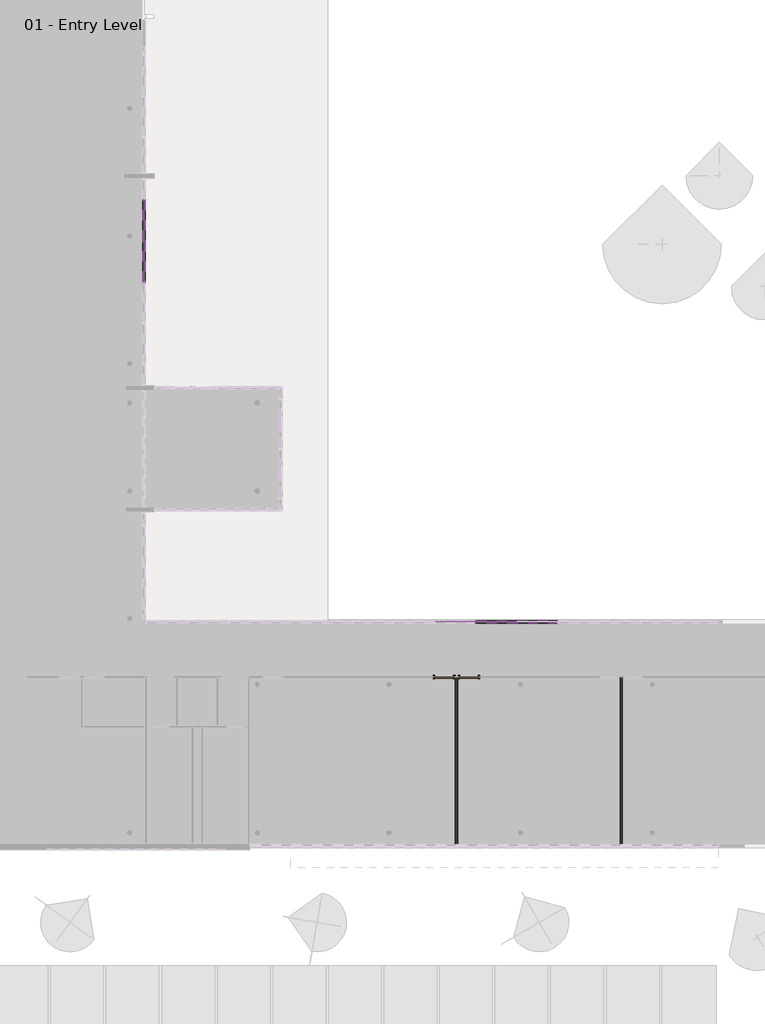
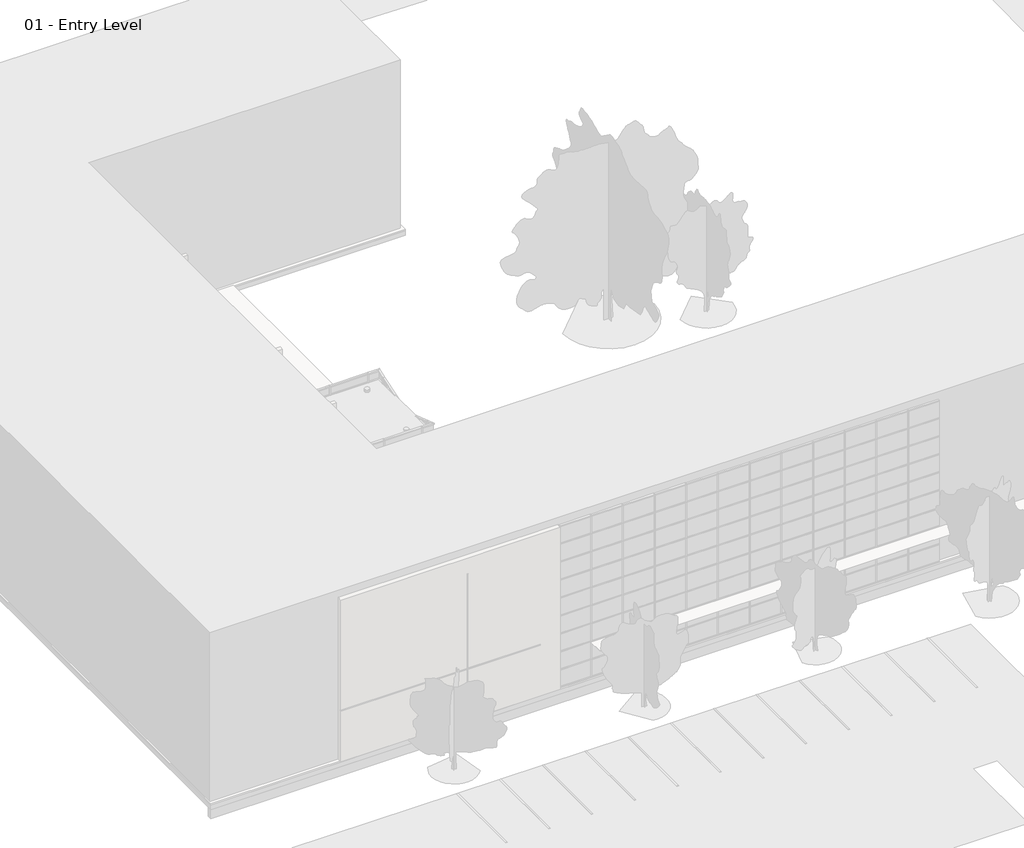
# One storey, part 18 of 35: 79 members, 36 plates, 2 doors, 2 walls.
"""IFC4 building model written with IfcOpenShell, lengths in millimetres."""

from ifc_helpers import new_model, si_unit, origin, origin_with_axes, place, context, project, spatial, polyline, outline, extrude, transform, mapped, element, save
from components import door_305aa2a5, door_e5f9f3c4, member_2b49869a, member_391b434c, member_9e90ae50, member_9193c932, system_panel_glazed_1b9d6098, system_panel_glazed_70da479d

model = new_model("IFC4")

# Units and contexts
model_context = context("Model", 3, world=origin())
ifc_project = project(units=[si_unit("LENGTHUNIT", "METRE", prefix="MILLI")], contexts=[model_context])

# Site, building, storey
site = spatial("IfcSite", under=ifc_project)
building = spatial("IfcBuilding", under=site)
storey = spatial("IfcBuildingStorey", under=building, Name="01 - Entry Level", Elevation=0.0)

# Doors
placement = place(None, origin())
door_shape = door_305aa2a5(model_context)
element("IfcDoor", 1, ObjectType="Single-Flush : 36\" x 84\"", at=placement, inside=storey, context=model_context, shape_type="MappedRepresentation", body=[
    mapped(door_shape, transform((32017.6207476, 8277.15, 0.0), x_axis=(1.0, 0.0, 0.0), y_axis=(0.0, 1.0, 0.0), z_axis=(0.0, 0.0, 1.0))),
])
door_2_shape = door_e5f9f3c4(model_context)
element("IfcDoor", 2, ObjectType="Single-Flush : 36\" x 84\"", at=placement, inside=storey, context=model_context, shape_type="MappedRepresentation", body=[
    mapped(door_2_shape, transform((33236.8207476, 8277.15, 0.0), x_axis=(-1.0, 0.0, 0.0), y_axis=(0.0, -1.0, 0.0), z_axis=(0.0, 0.0, 1.0))),
])

# Members
member_shape = member_2b49869a(model_context)
element("IfcMember", 3, ObjectType="Rectangular Mullion : 2.5\" x 5\" rectangular", at=placement, inside=storey, context=model_context, shape_type="MappedRepresentation", body=[
    mapped(member_shape, transform((35624.4207476, 11001.3, 9753.6), x_axis=(-1.0, 0.0, 0.0), y_axis=(0.0, 1.0, 0.0), z_axis=(0.0, 0.0, -1.0))),
])
element("IfcMember", 4, ObjectType="Rectangular Mullion : 2.5\" x 5\" rectangular", at=placement, inside=storey, context=model_context, shape_type="MappedRepresentation", body=[
    mapped(member_shape, transform((33592.4207476, 11001.3, 9753.6), x_axis=(-1.0, 0.0, 0.0), y_axis=(0.0, 1.0, 0.0), z_axis=(0.0, 0.0, -1.0))),
])
element("IfcMember", 5, ObjectType="Rectangular Mullion : 2.5\" x 5\" rectangular", at=placement, inside=storey, context=model_context, shape_type="MappedRepresentation", body=[
    mapped(member_shape, transform((17184.0207476, 27784.35, 9753.6), x_axis=(0.0, 1.0, 0.0), y_axis=(1.0, 0.0, 0.0), z_axis=(0.0, 0.0, -1.0))),
])
element("IfcMember", 6, ObjectType="Rectangular Mullion : 2.5\" x 5\" rectangular", at=placement, inside=storey, context=model_context, shape_type="MappedRepresentation", body=[
    mapped(member_shape, transform((17184.0207476, 29816.35, 9753.6), x_axis=(0.0, 1.0, 0.0), y_axis=(1.0, 0.0, 0.0), z_axis=(0.0, 0.0, -1.0))),
])
element("IfcMember", 7, ObjectType="Rectangular Mullion : 2.5\" x 5\" rectangular", at=placement, inside=storey, context=model_context, shape_type="MappedRepresentation", body=[
    mapped(member_shape, transform((17184.0207476, 31848.35, 9753.6), x_axis=(0.0, 1.0, 0.0), y_axis=(1.0, 0.0, 0.0), z_axis=(0.0, 0.0, -1.0))),
])
member_2_shape = member_391b434c(model_context)
element("IfcMember", 8, ObjectType="Rectangular Mullion : 2.5\" x 5\" rectangular", at=placement, inside=storey, context=model_context, shape_type="MappedRepresentation", body=[
    mapped(member_2_shape, transform((35656.1707476, 11001.3, 10972.8), x_axis=(0.0, 0.0, 1.0), y_axis=(0.0, 1.0, 0.0), z_axis=(-1.0, 0.0, 0.0))),
])
element("IfcMember", 9, ObjectType="Rectangular Mullion : 2.5\" x 5\" rectangular", at=placement, inside=storey, context=model_context, shape_type="MappedRepresentation", body=[
    mapped(member_2_shape, transform((33624.1707476, 11001.3, 10972.8), x_axis=(0.0, 0.0, 1.0), y_axis=(0.0, 1.0, 0.0), z_axis=(-1.0, 0.0, 0.0))),
])
element("IfcMember", 10, ObjectType="Rectangular Mullion : 2.5\" x 5\" rectangular", at=placement, inside=storey, context=model_context, shape_type="MappedRepresentation", body=[
    mapped(member_2_shape, transform((17184.0207476, 29784.6, 10972.8), x_axis=(0.0, 0.0, 1.0), y_axis=(1.0, 0.0, 0.0), z_axis=(0.0, 1.0, 0.0))),
])
element("IfcMember", 11, ObjectType="Rectangular Mullion : 2.5\" x 5\" rectangular", at=placement, inside=storey, context=model_context, shape_type="MappedRepresentation", body=[
    mapped(member_2_shape, transform((17184.0207476, 31816.6, 10972.8), x_axis=(0.0, 0.0, 1.0), y_axis=(1.0, 0.0, 0.0), z_axis=(0.0, 1.0, 0.0))),
])
element("IfcMember", 12, ObjectType="Rectangular Mullion : 2.5\" x 5\" rectangular", at=placement, inside=storey, context=model_context, shape_type="MappedRepresentation", body=[
    mapped(member_2_shape, transform((35592.6707476, 11001.3, 0.0), x_axis=(0.0, 0.0, -1.0), y_axis=(0.0, 1.0, 0.0), z_axis=(1.0, 0.0, 0.0))),
])
element("IfcMember", 13, ObjectType="Rectangular Mullion : 2.5\" x 5\" rectangular", at=placement, inside=storey, context=model_context, shape_type="MappedRepresentation", body=[
    mapped(member_2_shape, transform((33560.6707476, 11001.3, 0.0), x_axis=(0.0, 0.0, -1.0), y_axis=(0.0, 1.0, 0.0), z_axis=(1.0, 0.0, 0.0))),
])
element("IfcMember", 14, ObjectType="Rectangular Mullion : 2.5\" x 5\" rectangular", at=placement, inside=storey, context=model_context, shape_type="MappedRepresentation", body=[
    mapped(member_2_shape, transform((17184.0207476, 29848.1, 0.0), x_axis=(0.0, 0.0, -1.0), y_axis=(1.0, 0.0, 0.0), z_axis=(0.0, -1.0, 0.0))),
])
member_3_shape = member_9e90ae50(model_context)
element("IfcMember", 15, ObjectType="Rectangular Mullion : 2.5\" x 5\" rectangular", at=placement, inside=storey, context=model_context, shape_type="MappedRepresentation", body=[
    mapped(member_3_shape, transform((35656.1707476, 11001.3, 1219.2), x_axis=(0.0, 0.0, 1.0), y_axis=(0.0, 1.0, 0.0), z_axis=(-1.0, 0.0, 0.0))),
])
element("IfcMember", 16, ObjectType="Rectangular Mullion : 2.5\" x 5\" rectangular", at=placement, inside=storey, context=model_context, shape_type="MappedRepresentation", body=[
    mapped(member_3_shape, transform((33624.1707476, 11001.3, 1219.2), x_axis=(0.0, 0.0, 1.0), y_axis=(0.0, 1.0, 0.0), z_axis=(-1.0, 0.0, 0.0))),
])
element("IfcMember", 17, ObjectType="Rectangular Mullion : 2.5\" x 5\" rectangular", at=placement, inside=storey, context=model_context, shape_type="MappedRepresentation", body=[
    mapped(member_3_shape, transform((35656.1707476, 11001.3, 2438.4), x_axis=(0.0, 0.0, 1.0), y_axis=(0.0, 1.0, 0.0), z_axis=(-1.0, 0.0, 0.0))),
])
element("IfcMember", 18, ObjectType="Rectangular Mullion : 2.5\" x 5\" rectangular", at=placement, inside=storey, context=model_context, shape_type="MappedRepresentation", body=[
    mapped(member_3_shape, transform((33624.1707476, 11001.3, 2438.4), x_axis=(0.0, 0.0, 1.0), y_axis=(0.0, 1.0, 0.0), z_axis=(-1.0, 0.0, 0.0))),
])
element("IfcMember", 19, ObjectType="Rectangular Mullion : 2.5\" x 5\" rectangular", at=placement, inside=storey, context=model_context, shape_type="MappedRepresentation", body=[
    mapped(member_3_shape, transform((35656.1707476, 11001.3, 3657.6), x_axis=(0.0, 0.0, 1.0), y_axis=(0.0, 1.0, 0.0), z_axis=(-1.0, 0.0, 0.0))),
])
element("IfcMember", 20, ObjectType="Rectangular Mullion : 2.5\" x 5\" rectangular", at=placement, inside=storey, context=model_context, shape_type="MappedRepresentation", body=[
    mapped(member_3_shape, transform((33624.1707476, 11001.3, 3657.6), x_axis=(0.0, 0.0, 1.0), y_axis=(0.0, 1.0, 0.0), z_axis=(-1.0, 0.0, 0.0))),
])
element("IfcMember", 21, ObjectType="Rectangular Mullion : 2.5\" x 5\" rectangular", at=placement, inside=storey, context=model_context, shape_type="MappedRepresentation", body=[
    mapped(member_3_shape, transform((35656.1707476, 11001.3, 4876.8), x_axis=(0.0, 0.0, 1.0), y_axis=(0.0, 1.0, 0.0), z_axis=(-1.0, 0.0, 0.0))),
])
element("IfcMember", 22, ObjectType="Rectangular Mullion : 2.5\" x 5\" rectangular", at=placement, inside=storey, context=model_context, shape_type="MappedRepresentation", body=[
    mapped(member_3_shape, transform((33624.1707476, 11001.3, 4876.8), x_axis=(0.0, 0.0, 1.0), y_axis=(0.0, 1.0, 0.0), z_axis=(-1.0, 0.0, 0.0))),
])
element("IfcMember", 23, ObjectType="Rectangular Mullion : 2.5\" x 5\" rectangular", at=placement, inside=storey, context=model_context, shape_type="MappedRepresentation", body=[
    mapped(member_3_shape, transform((35656.1707476, 11001.3, 6096.0), x_axis=(0.0, 0.0, 1.0), y_axis=(0.0, 1.0, 0.0), z_axis=(-1.0, 0.0, 0.0))),
])
element("IfcMember", 24, ObjectType="Rectangular Mullion : 2.5\" x 5\" rectangular", at=placement, inside=storey, context=model_context, shape_type="MappedRepresentation", body=[
    mapped(member_3_shape, transform((33624.1707476, 11001.3, 6096.0), x_axis=(0.0, 0.0, 1.0), y_axis=(0.0, 1.0, 0.0), z_axis=(-1.0, 0.0, 0.0))),
])
element("IfcMember", 25, ObjectType="Rectangular Mullion : 2.5\" x 5\" rectangular", at=placement, inside=storey, context=model_context, shape_type="MappedRepresentation", body=[
    mapped(member_3_shape, transform((35656.1707476, 11001.3, 7315.2), x_axis=(0.0, 0.0, 1.0), y_axis=(0.0, 1.0, 0.0), z_axis=(-1.0, 0.0, 0.0))),
])
element("IfcMember", 26, ObjectType="Rectangular Mullion : 2.5\" x 5\" rectangular", at=placement, inside=storey, context=model_context, shape_type="MappedRepresentation", body=[
    mapped(member_3_shape, transform((33624.1707476, 11001.3, 7315.2), x_axis=(0.0, 0.0, 1.0), y_axis=(0.0, 1.0, 0.0), z_axis=(-1.0, 0.0, 0.0))),
])
element("IfcMember", 27, ObjectType="Rectangular Mullion : 2.5\" x 5\" rectangular", at=placement, inside=storey, context=model_context, shape_type="MappedRepresentation", body=[
    mapped(member_3_shape, transform((35656.1707476, 11001.3, 8534.4), x_axis=(0.0, 0.0, 1.0), y_axis=(0.0, 1.0, 0.0), z_axis=(-1.0, 0.0, 0.0))),
])
element("IfcMember", 28, ObjectType="Rectangular Mullion : 2.5\" x 5\" rectangular", at=placement, inside=storey, context=model_context, shape_type="MappedRepresentation", body=[
    mapped(member_3_shape, transform((33624.1707476, 11001.3, 8534.4), x_axis=(0.0, 0.0, 1.0), y_axis=(0.0, 1.0, 0.0), z_axis=(-1.0, 0.0, 0.0))),
])
element("IfcMember", 29, ObjectType="Rectangular Mullion : 2.5\" x 5\" rectangular", at=placement, inside=storey, context=model_context, shape_type="MappedRepresentation", body=[
    mapped(member_3_shape, transform((35656.1707476, 11001.3, 9753.6), x_axis=(0.0, 0.0, 1.0), y_axis=(0.0, 1.0, 0.0), z_axis=(-1.0, 0.0, 0.0))),
])
element("IfcMember", 30, ObjectType="Rectangular Mullion : 2.5\" x 5\" rectangular", at=placement, inside=storey, context=model_context, shape_type="MappedRepresentation", body=[
    mapped(member_3_shape, transform((33624.1707476, 11001.3, 9753.6), x_axis=(0.0, 0.0, 1.0), y_axis=(0.0, 1.0, 0.0), z_axis=(-1.0, 0.0, 0.0))),
])
element("IfcMember", 31, ObjectType="Rectangular Mullion : 2.5\" x 5\" rectangular", at=placement, inside=storey, context=model_context, shape_type="MappedRepresentation", body=[
    mapped(member_3_shape, transform((17184.0207476, 29784.6, 1219.2), x_axis=(0.0, 0.0, 1.0), y_axis=(1.0, 0.0, 0.0), z_axis=(0.0, 1.0, 0.0))),
])
element("IfcMember", 32, ObjectType="Rectangular Mullion : 2.5\" x 5\" rectangular", at=placement, inside=storey, context=model_context, shape_type="MappedRepresentation", body=[
    mapped(member_3_shape, transform((17184.0207476, 31816.6, 1219.2), x_axis=(0.0, 0.0, 1.0), y_axis=(1.0, 0.0, 0.0), z_axis=(0.0, 1.0, 0.0))),
])
element("IfcMember", 33, ObjectType="Rectangular Mullion : 2.5\" x 5\" rectangular", at=placement, inside=storey, context=model_context, shape_type="MappedRepresentation", body=[
    mapped(member_3_shape, transform((17184.0207476, 29784.6, 2438.4), x_axis=(0.0, 0.0, 1.0), y_axis=(1.0, 0.0, 0.0), z_axis=(0.0, 1.0, 0.0))),
])
element("IfcMember", 34, ObjectType="Rectangular Mullion : 2.5\" x 5\" rectangular", at=placement, inside=storey, context=model_context, shape_type="MappedRepresentation", body=[
    mapped(member_3_shape, transform((17184.0207476, 31816.6, 2438.4), x_axis=(0.0, 0.0, 1.0), y_axis=(1.0, 0.0, 0.0), z_axis=(0.0, 1.0, 0.0))),
])
element("IfcMember", 35, ObjectType="Rectangular Mullion : 2.5\" x 5\" rectangular", at=placement, inside=storey, context=model_context, shape_type="MappedRepresentation", body=[
    mapped(member_3_shape, transform((17184.0207476, 29784.6, 3657.6), x_axis=(0.0, 0.0, 1.0), y_axis=(1.0, 0.0, 0.0), z_axis=(0.0, 1.0, 0.0))),
])
element("IfcMember", 36, ObjectType="Rectangular Mullion : 2.5\" x 5\" rectangular", at=placement, inside=storey, context=model_context, shape_type="MappedRepresentation", body=[
    mapped(member_3_shape, transform((17184.0207476, 31816.6, 3657.6), x_axis=(0.0, 0.0, 1.0), y_axis=(1.0, 0.0, 0.0), z_axis=(0.0, 1.0, 0.0))),
])
element("IfcMember", 37, ObjectType="Rectangular Mullion : 2.5\" x 5\" rectangular", at=placement, inside=storey, context=model_context, shape_type="MappedRepresentation", body=[
    mapped(member_3_shape, transform((17184.0207476, 29784.6, 4876.8), x_axis=(0.0, 0.0, 1.0), y_axis=(1.0, 0.0, 0.0), z_axis=(0.0, 1.0, 0.0))),
])
element("IfcMember", 38, ObjectType="Rectangular Mullion : 2.5\" x 5\" rectangular", at=placement, inside=storey, context=model_context, shape_type="MappedRepresentation", body=[
    mapped(member_3_shape, transform((17184.0207476, 31816.6, 4876.8), x_axis=(0.0, 0.0, 1.0), y_axis=(1.0, 0.0, 0.0), z_axis=(0.0, 1.0, 0.0))),
])
element("IfcMember", 39, ObjectType="Rectangular Mullion : 2.5\" x 5\" rectangular", at=placement, inside=storey, context=model_context, shape_type="MappedRepresentation", body=[
    mapped(member_3_shape, transform((17184.0207476, 29784.6, 6096.0), x_axis=(0.0, 0.0, 1.0), y_axis=(1.0, 0.0, 0.0), z_axis=(0.0, 1.0, 0.0))),
])
element("IfcMember", 40, ObjectType="Rectangular Mullion : 2.5\" x 5\" rectangular", at=placement, inside=storey, context=model_context, shape_type="MappedRepresentation", body=[
    mapped(member_3_shape, transform((17184.0207476, 31816.6, 6096.0), x_axis=(0.0, 0.0, 1.0), y_axis=(1.0, 0.0, 0.0), z_axis=(0.0, 1.0, 0.0))),
])
element("IfcMember", 41, ObjectType="Rectangular Mullion : 2.5\" x 5\" rectangular", at=placement, inside=storey, context=model_context, shape_type="MappedRepresentation", body=[
    mapped(member_3_shape, transform((17184.0207476, 29784.6, 7315.2), x_axis=(0.0, 0.0, 1.0), y_axis=(1.0, 0.0, 0.0), z_axis=(0.0, 1.0, 0.0))),
])
element("IfcMember", 42, ObjectType="Rectangular Mullion : 2.5\" x 5\" rectangular", at=placement, inside=storey, context=model_context, shape_type="MappedRepresentation", body=[
    mapped(member_3_shape, transform((17184.0207476, 31816.6, 7315.2), x_axis=(0.0, 0.0, 1.0), y_axis=(1.0, 0.0, 0.0), z_axis=(0.0, 1.0, 0.0))),
])
element("IfcMember", 43, ObjectType="Rectangular Mullion : 2.5\" x 5\" rectangular", at=placement, inside=storey, context=model_context, shape_type="MappedRepresentation", body=[
    mapped(member_3_shape, transform((17184.0207476, 29784.6, 8534.4), x_axis=(0.0, 0.0, 1.0), y_axis=(1.0, 0.0, 0.0), z_axis=(0.0, 1.0, 0.0))),
])
element("IfcMember", 44, ObjectType="Rectangular Mullion : 2.5\" x 5\" rectangular", at=placement, inside=storey, context=model_context, shape_type="MappedRepresentation", body=[
    mapped(member_3_shape, transform((17184.0207476, 31816.6, 8534.4), x_axis=(0.0, 0.0, 1.0), y_axis=(1.0, 0.0, 0.0), z_axis=(0.0, 1.0, 0.0))),
])
element("IfcMember", 45, ObjectType="Rectangular Mullion : 2.5\" x 5\" rectangular", at=placement, inside=storey, context=model_context, shape_type="MappedRepresentation", body=[
    mapped(member_3_shape, transform((17184.0207476, 29784.6, 9753.6), x_axis=(0.0, 0.0, 1.0), y_axis=(1.0, 0.0, 0.0), z_axis=(0.0, 1.0, 0.0))),
])
element("IfcMember", 46, ObjectType="Rectangular Mullion : 2.5\" x 5\" rectangular", at=placement, inside=storey, context=model_context, shape_type="MappedRepresentation", body=[
    mapped(member_3_shape, transform((17184.0207476, 31816.6, 9753.6), x_axis=(0.0, 0.0, 1.0), y_axis=(1.0, 0.0, 0.0), z_axis=(0.0, 1.0, 0.0))),
])
element("IfcMember", 47, ObjectType="Rectangular Mullion : 2.5\" x 5\" rectangular", at=placement, inside=storey, context=model_context, shape_type="MappedRepresentation", body=[
    mapped(member_shape, transform((35624.4207476, 11001.3, 0.0), x_axis=(-1.0, 0.0, 0.0), y_axis=(0.0, 1.0, 0.0), z_axis=(0.0, 0.0, -1.0))),
])
element("IfcMember", 48, ObjectType="Rectangular Mullion : 2.5\" x 5\" rectangular", at=placement, inside=storey, context=model_context, shape_type="MappedRepresentation", body=[
    mapped(member_shape, transform((33592.4207476, 11001.3, 0.0), x_axis=(-1.0, 0.0, 0.0), y_axis=(0.0, 1.0, 0.0), z_axis=(0.0, 0.0, -1.0))),
])
element("IfcMember", 49, ObjectType="Rectangular Mullion : 2.5\" x 5\" rectangular", at=placement, inside=storey, context=model_context, shape_type="MappedRepresentation", body=[
    mapped(member_shape, transform((17184.0207476, 29816.35, 0.0), x_axis=(0.0, 1.0, 0.0), y_axis=(1.0, 0.0, 0.0), z_axis=(0.0, 0.0, -1.0))),
])
element("IfcMember", 50, ObjectType="Rectangular Mullion : 2.5\" x 5\" rectangular", at=placement, inside=storey, context=model_context, shape_type="MappedRepresentation", body=[
    mapped(member_shape, transform((17184.0207476, 31848.35, 0.0), x_axis=(0.0, 1.0, 0.0), y_axis=(1.0, 0.0, 0.0), z_axis=(0.0, 0.0, -1.0))),
])
element("IfcMember", 51, ObjectType="Rectangular Mullion : 2.5\" x 5\" rectangular", at=placement, inside=storey, context=model_context, shape_type="MappedRepresentation", body=[
    mapped(member_shape, transform((35624.4207476, 11001.3, 1219.2), x_axis=(-1.0, 0.0, 0.0), y_axis=(0.0, 1.0, 0.0), z_axis=(0.0, 0.0, -1.0))),
])
element("IfcMember", 52, ObjectType="Rectangular Mullion : 2.5\" x 5\" rectangular", at=placement, inside=storey, context=model_context, shape_type="MappedRepresentation", body=[
    mapped(member_shape, transform((33592.4207476, 11001.3, 1219.2), x_axis=(-1.0, 0.0, 0.0), y_axis=(0.0, 1.0, 0.0), z_axis=(0.0, 0.0, -1.0))),
])
element("IfcMember", 53, ObjectType="Rectangular Mullion : 2.5\" x 5\" rectangular", at=placement, inside=storey, context=model_context, shape_type="MappedRepresentation", body=[
    mapped(member_shape, transform((35624.4207476, 11001.3, 2438.4), x_axis=(-1.0, 0.0, 0.0), y_axis=(0.0, 1.0, 0.0), z_axis=(0.0, 0.0, -1.0))),
])
element("IfcMember", 54, ObjectType="Rectangular Mullion : 2.5\" x 5\" rectangular", at=placement, inside=storey, context=model_context, shape_type="MappedRepresentation", body=[
    mapped(member_shape, transform((33592.4207476, 11001.3, 2438.4), x_axis=(-1.0, 0.0, 0.0), y_axis=(0.0, 1.0, 0.0), z_axis=(0.0, 0.0, -1.0))),
])
element("IfcMember", 55, ObjectType="Rectangular Mullion : 2.5\" x 5\" rectangular", at=placement, inside=storey, context=model_context, shape_type="MappedRepresentation", body=[
    mapped(member_shape, transform((35624.4207476, 11001.3, 3657.6), x_axis=(-1.0, 0.0, 0.0), y_axis=(0.0, 1.0, 0.0), z_axis=(0.0, 0.0, -1.0))),
])
element("IfcMember", 56, ObjectType="Rectangular Mullion : 2.5\" x 5\" rectangular", at=placement, inside=storey, context=model_context, shape_type="MappedRepresentation", body=[
    mapped(member_shape, transform((33592.4207476, 11001.3, 3657.6), x_axis=(-1.0, 0.0, 0.0), y_axis=(0.0, 1.0, 0.0), z_axis=(0.0, 0.0, -1.0))),
])
element("IfcMember", 57, ObjectType="Rectangular Mullion : 2.5\" x 5\" rectangular", at=placement, inside=storey, context=model_context, shape_type="MappedRepresentation", body=[
    mapped(member_shape, transform((35624.4207476, 11001.3, 4876.8), x_axis=(-1.0, 0.0, 0.0), y_axis=(0.0, 1.0, 0.0), z_axis=(0.0, 0.0, -1.0))),
])
element("IfcMember", 58, ObjectType="Rectangular Mullion : 2.5\" x 5\" rectangular", at=placement, inside=storey, context=model_context, shape_type="MappedRepresentation", body=[
    mapped(member_shape, transform((33592.4207476, 11001.3, 4876.8), x_axis=(-1.0, 0.0, 0.0), y_axis=(0.0, 1.0, 0.0), z_axis=(0.0, 0.0, -1.0))),
])
element("IfcMember", 59, ObjectType="Rectangular Mullion : 2.5\" x 5\" rectangular", at=placement, inside=storey, context=model_context, shape_type="MappedRepresentation", body=[
    mapped(member_shape, transform((35624.4207476, 11001.3, 6096.0), x_axis=(-1.0, 0.0, 0.0), y_axis=(0.0, 1.0, 0.0), z_axis=(0.0, 0.0, -1.0))),
])
element("IfcMember", 60, ObjectType="Rectangular Mullion : 2.5\" x 5\" rectangular", at=placement, inside=storey, context=model_context, shape_type="MappedRepresentation", body=[
    mapped(member_shape, transform((33592.4207476, 11001.3, 6096.0), x_axis=(-1.0, 0.0, 0.0), y_axis=(0.0, 1.0, 0.0), z_axis=(0.0, 0.0, -1.0))),
])
element("IfcMember", 61, ObjectType="Rectangular Mullion : 2.5\" x 5\" rectangular", at=placement, inside=storey, context=model_context, shape_type="MappedRepresentation", body=[
    mapped(member_shape, transform((35624.4207476, 11001.3, 7315.2), x_axis=(-1.0, 0.0, 0.0), y_axis=(0.0, 1.0, 0.0), z_axis=(0.0, 0.0, -1.0))),
])
element("IfcMember", 62, ObjectType="Rectangular Mullion : 2.5\" x 5\" rectangular", at=placement, inside=storey, context=model_context, shape_type="MappedRepresentation", body=[
    mapped(member_shape, transform((33592.4207476, 11001.3, 7315.2), x_axis=(-1.0, 0.0, 0.0), y_axis=(0.0, 1.0, 0.0), z_axis=(0.0, 0.0, -1.0))),
])
element("IfcMember", 63, ObjectType="Rectangular Mullion : 2.5\" x 5\" rectangular", at=placement, inside=storey, context=model_context, shape_type="MappedRepresentation", body=[
    mapped(member_shape, transform((35624.4207476, 11001.3, 8534.4), x_axis=(-1.0, 0.0, 0.0), y_axis=(0.0, 1.0, 0.0), z_axis=(0.0, 0.0, -1.0))),
])
element("IfcMember", 64, ObjectType="Rectangular Mullion : 2.5\" x 5\" rectangular", at=placement, inside=storey, context=model_context, shape_type="MappedRepresentation", body=[
    mapped(member_shape, transform((33592.4207476, 11001.3, 8534.4), x_axis=(-1.0, 0.0, 0.0), y_axis=(0.0, 1.0, 0.0), z_axis=(0.0, 0.0, -1.0))),
])
element("IfcMember", 65, ObjectType="Rectangular Mullion : 2.5\" x 5\" rectangular", at=placement, inside=storey, context=model_context, shape_type="MappedRepresentation", body=[
    mapped(member_shape, transform((17184.0207476, 29816.35, 1219.2), x_axis=(0.0, 1.0, 0.0), y_axis=(1.0, 0.0, 0.0), z_axis=(0.0, 0.0, -1.0))),
])
element("IfcMember", 66, ObjectType="Rectangular Mullion : 2.5\" x 5\" rectangular", at=placement, inside=storey, context=model_context, shape_type="MappedRepresentation", body=[
    mapped(member_shape, transform((17184.0207476, 31848.35, 1219.2), x_axis=(0.0, 1.0, 0.0), y_axis=(1.0, 0.0, 0.0), z_axis=(0.0, 0.0, -1.0))),
])
element("IfcMember", 67, ObjectType="Rectangular Mullion : 2.5\" x 5\" rectangular", at=placement, inside=storey, context=model_context, shape_type="MappedRepresentation", body=[
    mapped(member_shape, transform((17184.0207476, 29816.35, 2438.4), x_axis=(0.0, 1.0, 0.0), y_axis=(1.0, 0.0, 0.0), z_axis=(0.0, 0.0, -1.0))),
])
element("IfcMember", 68, ObjectType="Rectangular Mullion : 2.5\" x 5\" rectangular", at=placement, inside=storey, context=model_context, shape_type="MappedRepresentation", body=[
    mapped(member_shape, transform((17184.0207476, 31848.35, 2438.4), x_axis=(0.0, 1.0, 0.0), y_axis=(1.0, 0.0, 0.0), z_axis=(0.0, 0.0, -1.0))),
])
element("IfcMember", 69, ObjectType="Rectangular Mullion : 2.5\" x 5\" rectangular", at=placement, inside=storey, context=model_context, shape_type="MappedRepresentation", body=[
    mapped(member_shape, transform((17184.0207476, 29816.35, 3657.6), x_axis=(0.0, 1.0, 0.0), y_axis=(1.0, 0.0, 0.0), z_axis=(0.0, 0.0, -1.0))),
])
element("IfcMember", 70, ObjectType="Rectangular Mullion : 2.5\" x 5\" rectangular", at=placement, inside=storey, context=model_context, shape_type="MappedRepresentation", body=[
    mapped(member_shape, transform((17184.0207476, 31848.35, 3657.6), x_axis=(0.0, 1.0, 0.0), y_axis=(1.0, 0.0, 0.0), z_axis=(0.0, 0.0, -1.0))),
])
element("IfcMember", 71, ObjectType="Rectangular Mullion : 2.5\" x 5\" rectangular", at=placement, inside=storey, context=model_context, shape_type="MappedRepresentation", body=[
    mapped(member_shape, transform((17184.0207476, 29816.35, 4876.8), x_axis=(0.0, 1.0, 0.0), y_axis=(1.0, 0.0, 0.0), z_axis=(0.0, 0.0, -1.0))),
])
element("IfcMember", 72, ObjectType="Rectangular Mullion : 2.5\" x 5\" rectangular", at=placement, inside=storey, context=model_context, shape_type="MappedRepresentation", body=[
    mapped(member_shape, transform((17184.0207476, 31848.35, 4876.8), x_axis=(0.0, 1.0, 0.0), y_axis=(1.0, 0.0, 0.0), z_axis=(0.0, 0.0, -1.0))),
])
element("IfcMember", 73, ObjectType="Rectangular Mullion : 2.5\" x 5\" rectangular", at=placement, inside=storey, context=model_context, shape_type="MappedRepresentation", body=[
    mapped(member_shape, transform((17184.0207476, 29816.35, 6096.0), x_axis=(0.0, 1.0, 0.0), y_axis=(1.0, 0.0, 0.0), z_axis=(0.0, 0.0, -1.0))),
])
element("IfcMember", 74, ObjectType="Rectangular Mullion : 2.5\" x 5\" rectangular", at=placement, inside=storey, context=model_context, shape_type="MappedRepresentation", body=[
    mapped(member_shape, transform((17184.0207476, 31848.35, 6096.0), x_axis=(0.0, 1.0, 0.0), y_axis=(1.0, 0.0, 0.0), z_axis=(0.0, 0.0, -1.0))),
])
element("IfcMember", 75, ObjectType="Rectangular Mullion : 2.5\" x 5\" rectangular", at=placement, inside=storey, context=model_context, shape_type="MappedRepresentation", body=[
    mapped(member_shape, transform((17184.0207476, 27784.35, 7315.2), x_axis=(0.0, 1.0, 0.0), y_axis=(1.0, 0.0, 0.0), z_axis=(0.0, 0.0, -1.0))),
])
element("IfcMember", 76, ObjectType="Rectangular Mullion : 2.5\" x 5\" rectangular", at=placement, inside=storey, context=model_context, shape_type="MappedRepresentation", body=[
    mapped(member_shape, transform((17184.0207476, 29816.35, 7315.2), x_axis=(0.0, 1.0, 0.0), y_axis=(1.0, 0.0, 0.0), z_axis=(0.0, 0.0, -1.0))),
])
element("IfcMember", 77, ObjectType="Rectangular Mullion : 2.5\" x 5\" rectangular", at=placement, inside=storey, context=model_context, shape_type="MappedRepresentation", body=[
    mapped(member_shape, transform((17184.0207476, 31848.35, 7315.2), x_axis=(0.0, 1.0, 0.0), y_axis=(1.0, 0.0, 0.0), z_axis=(0.0, 0.0, -1.0))),
])
element("IfcMember", 78, ObjectType="Rectangular Mullion : 2.5\" x 5\" rectangular", at=placement, inside=storey, context=model_context, shape_type="MappedRepresentation", body=[
    mapped(member_shape, transform((17184.0207476, 27784.35, 8534.4), x_axis=(0.0, 1.0, 0.0), y_axis=(1.0, 0.0, 0.0), z_axis=(0.0, 0.0, -1.0))),
])
element("IfcMember", 79, ObjectType="Rectangular Mullion : 2.5\" x 5\" rectangular", at=placement, inside=storey, context=model_context, shape_type="MappedRepresentation", body=[
    mapped(member_shape, transform((17184.0207476, 29816.35, 8534.4), x_axis=(0.0, 1.0, 0.0), y_axis=(1.0, 0.0, 0.0), z_axis=(0.0, 0.0, -1.0))),
])
element("IfcMember", 80, ObjectType="Rectangular Mullion : 2.5\" x 5\" rectangular", at=placement, inside=storey, context=model_context, shape_type="MappedRepresentation", body=[
    mapped(member_shape, transform((17184.0207476, 31848.35, 8534.4), x_axis=(0.0, 1.0, 0.0), y_axis=(1.0, 0.0, 0.0), z_axis=(0.0, 0.0, -1.0))),
])
member_4_shape = member_9193c932(model_context)
element("IfcMember", 81, ObjectType="Rectangular Mullion : 2.5\" x 5\" rectangular", at=placement, inside=storey, context=model_context, shape_type="MappedRepresentation", body=[
    mapped(member_4_shape, transform((17184.0207476, 31880.1, 0.0), x_axis=(0.0, 0.0, -1.0), y_axis=(1.0, 0.0, 0.0), z_axis=(0.0, -1.0, 0.0))),
])

# Plates
system_panel_glazed_shape = system_panel_glazed_1b9d6098(model_context)
element("IfcPlate", 82, ObjectType="System Panel : Glazed", at=placement, inside=storey, context=model_context, shape_type="MappedRepresentation", body=[
    mapped(system_panel_glazed_shape, transform((34608.4207476, 11001.3, 63.5), x_axis=(-1.0, 0.0, 0.0), y_axis=(0.0, -1.0, 0.0), z_axis=(0.0, 0.0, 1.0))),
])
element("IfcPlate", 83, ObjectType="System Panel : Glazed", at=placement, inside=storey, context=model_context, shape_type="MappedRepresentation", body=[
    mapped(system_panel_glazed_shape, transform((32576.4207476, 11001.3, 63.5), x_axis=(-1.0, 0.0, 0.0), y_axis=(0.0, -1.0, 0.0), z_axis=(0.0, 0.0, 1.0))),
])
element("IfcPlate", 84, ObjectType="System Panel : Glazed", at=placement, inside=storey, context=model_context, shape_type="MappedRepresentation", body=[
    mapped(system_panel_glazed_shape, transform((34608.4207476, 11001.3, 9785.35), x_axis=(-1.0, 0.0, 0.0), y_axis=(0.0, -1.0, 0.0), z_axis=(0.0, 0.0, 1.0))),
])
element("IfcPlate", 85, ObjectType="System Panel : Glazed", at=placement, inside=storey, context=model_context, shape_type="MappedRepresentation", body=[
    mapped(system_panel_glazed_shape, transform((32576.4207476, 11001.3, 9785.35), x_axis=(-1.0, 0.0, 0.0), y_axis=(0.0, -1.0, 0.0), z_axis=(0.0, 0.0, 1.0))),
])
element("IfcPlate", 86, ObjectType="System Panel : Glazed", at=placement, inside=storey, context=model_context, shape_type="MappedRepresentation", body=[
    mapped(system_panel_glazed_shape, transform((17184.0207476, 28800.35, 63.5), x_axis=(0.0, 1.0, 0.0), y_axis=(-1.0, 0.0, 0.0), z_axis=(0.0, 0.0, 1.0))),
])
element("IfcPlate", 87, ObjectType="System Panel : Glazed", at=placement, inside=storey, context=model_context, shape_type="MappedRepresentation", body=[
    mapped(system_panel_glazed_shape, transform((17184.0207476, 30832.35, 63.5), x_axis=(0.0, 1.0, 0.0), y_axis=(-1.0, 0.0, 0.0), z_axis=(0.0, 0.0, 1.0))),
])
element("IfcPlate", 88, ObjectType="System Panel : Glazed", at=placement, inside=storey, context=model_context, shape_type="MappedRepresentation", body=[
    mapped(system_panel_glazed_shape, transform((17184.0207476, 28800.35, 9785.35), x_axis=(0.0, 1.0, 0.0), y_axis=(-1.0, 0.0, 0.0), z_axis=(0.0, 0.0, 1.0))),
])
element("IfcPlate", 89, ObjectType="System Panel : Glazed", at=placement, inside=storey, context=model_context, shape_type="MappedRepresentation", body=[
    mapped(system_panel_glazed_shape, transform((17184.0207476, 30832.35, 9785.35), x_axis=(0.0, 1.0, 0.0), y_axis=(-1.0, 0.0, 0.0), z_axis=(0.0, 0.0, 1.0))),
])
system_panel_glazed_2_shape = system_panel_glazed_70da479d(model_context)
element("IfcPlate", 90, ObjectType="System Panel : Glazed", at=placement, inside=storey, context=model_context, shape_type="MappedRepresentation", body=[
    mapped(system_panel_glazed_2_shape, transform((34608.4207476, 11001.3, 1250.95), x_axis=(-1.0, 0.0, 0.0), y_axis=(0.0, -1.0, 0.0), z_axis=(0.0, 0.0, 1.0))),
])
element("IfcPlate", 91, ObjectType="System Panel : Glazed", at=placement, inside=storey, context=model_context, shape_type="MappedRepresentation", body=[
    mapped(system_panel_glazed_2_shape, transform((32576.4207476, 11001.3, 1250.95), x_axis=(-1.0, 0.0, 0.0), y_axis=(0.0, -1.0, 0.0), z_axis=(0.0, 0.0, 1.0))),
])
element("IfcPlate", 92, ObjectType="System Panel : Glazed", at=placement, inside=storey, context=model_context, shape_type="MappedRepresentation", body=[
    mapped(system_panel_glazed_2_shape, transform((34608.4207476, 11001.3, 2470.15), x_axis=(-1.0, 0.0, 0.0), y_axis=(0.0, -1.0, 0.0), z_axis=(0.0, 0.0, 1.0))),
])
element("IfcPlate", 93, ObjectType="System Panel : Glazed", at=placement, inside=storey, context=model_context, shape_type="MappedRepresentation", body=[
    mapped(system_panel_glazed_2_shape, transform((32576.4207476, 11001.3, 2470.15), x_axis=(-1.0, 0.0, 0.0), y_axis=(0.0, -1.0, 0.0), z_axis=(0.0, 0.0, 1.0))),
])
element("IfcPlate", 94, ObjectType="System Panel : Glazed", at=placement, inside=storey, context=model_context, shape_type="MappedRepresentation", body=[
    mapped(system_panel_glazed_2_shape, transform((34608.4207476, 11001.3, 3689.35), x_axis=(-1.0, 0.0, 0.0), y_axis=(0.0, -1.0, 0.0), z_axis=(0.0, 0.0, 1.0))),
])
element("IfcPlate", 95, ObjectType="System Panel : Glazed", at=placement, inside=storey, context=model_context, shape_type="MappedRepresentation", body=[
    mapped(system_panel_glazed_2_shape, transform((32576.4207476, 11001.3, 3689.35), x_axis=(-1.0, 0.0, 0.0), y_axis=(0.0, -1.0, 0.0), z_axis=(0.0, 0.0, 1.0))),
])
element("IfcPlate", 96, ObjectType="System Panel : Glazed", at=placement, inside=storey, context=model_context, shape_type="MappedRepresentation", body=[
    mapped(system_panel_glazed_2_shape, transform((34608.4207476, 11001.3, 4908.55), x_axis=(-1.0, 0.0, 0.0), y_axis=(0.0, -1.0, 0.0), z_axis=(0.0, 0.0, 1.0))),
])
element("IfcPlate", 97, ObjectType="System Panel : Glazed", at=placement, inside=storey, context=model_context, shape_type="MappedRepresentation", body=[
    mapped(system_panel_glazed_2_shape, transform((32576.4207476, 11001.3, 4908.55), x_axis=(-1.0, 0.0, 0.0), y_axis=(0.0, -1.0, 0.0), z_axis=(0.0, 0.0, 1.0))),
])
element("IfcPlate", 98, ObjectType="System Panel : Glazed", at=placement, inside=storey, context=model_context, shape_type="MappedRepresentation", body=[
    mapped(system_panel_glazed_2_shape, transform((34608.4207476, 11001.3, 6127.75), x_axis=(-1.0, 0.0, 0.0), y_axis=(0.0, -1.0, 0.0), z_axis=(0.0, 0.0, 1.0))),
])
element("IfcPlate", 99, ObjectType="System Panel : Glazed", at=placement, inside=storey, context=model_context, shape_type="MappedRepresentation", body=[
    mapped(system_panel_glazed_2_shape, transform((32576.4207476, 11001.3, 6127.75), x_axis=(-1.0, 0.0, 0.0), y_axis=(0.0, -1.0, 0.0), z_axis=(0.0, 0.0, 1.0))),
])
element("IfcPlate", 100, ObjectType="System Panel : Glazed", at=placement, inside=storey, context=model_context, shape_type="MappedRepresentation", body=[
    mapped(system_panel_glazed_2_shape, transform((34608.4207476, 11001.3, 7346.95), x_axis=(-1.0, 0.0, 0.0), y_axis=(0.0, -1.0, 0.0), z_axis=(0.0, 0.0, 1.0))),
])
element("IfcPlate", 101, ObjectType="System Panel : Glazed", at=placement, inside=storey, context=model_context, shape_type="MappedRepresentation", body=[
    mapped(system_panel_glazed_2_shape, transform((32576.4207476, 11001.3, 7346.95), x_axis=(-1.0, 0.0, 0.0), y_axis=(0.0, -1.0, 0.0), z_axis=(0.0, 0.0, 1.0))),
])
element("IfcPlate", 102, ObjectType="System Panel : Glazed", at=placement, inside=storey, context=model_context, shape_type="MappedRepresentation", body=[
    mapped(system_panel_glazed_2_shape, transform((34608.4207476, 11001.3, 8566.15), x_axis=(-1.0, 0.0, 0.0), y_axis=(0.0, -1.0, 0.0), z_axis=(0.0, 0.0, 1.0))),
])
element("IfcPlate", 103, ObjectType="System Panel : Glazed", at=placement, inside=storey, context=model_context, shape_type="MappedRepresentation", body=[
    mapped(system_panel_glazed_2_shape, transform((32576.4207476, 11001.3, 8566.15), x_axis=(-1.0, 0.0, 0.0), y_axis=(0.0, -1.0, 0.0), z_axis=(0.0, 0.0, 1.0))),
])
element("IfcPlate", 104, ObjectType="System Panel : Glazed", at=placement, inside=storey, context=model_context, shape_type="MappedRepresentation", body=[
    mapped(system_panel_glazed_2_shape, transform((17184.0207476, 28800.35, 1250.95), x_axis=(0.0, 1.0, 0.0), y_axis=(-1.0, 0.0, 0.0), z_axis=(0.0, 0.0, 1.0))),
])
element("IfcPlate", 105, ObjectType="System Panel : Glazed", at=placement, inside=storey, context=model_context, shape_type="MappedRepresentation", body=[
    mapped(system_panel_glazed_2_shape, transform((17184.0207476, 30832.35, 1250.95), x_axis=(0.0, 1.0, 0.0), y_axis=(-1.0, 0.0, 0.0), z_axis=(0.0, 0.0, 1.0))),
])
element("IfcPlate", 106, ObjectType="System Panel : Glazed", at=placement, inside=storey, context=model_context, shape_type="MappedRepresentation", body=[
    mapped(system_panel_glazed_2_shape, transform((17184.0207476, 28800.35, 2470.15), x_axis=(0.0, 1.0, 0.0), y_axis=(-1.0, 0.0, 0.0), z_axis=(0.0, 0.0, 1.0))),
])
element("IfcPlate", 107, ObjectType="System Panel : Glazed", at=placement, inside=storey, context=model_context, shape_type="MappedRepresentation", body=[
    mapped(system_panel_glazed_2_shape, transform((17184.0207476, 30832.35, 2470.15), x_axis=(0.0, 1.0, 0.0), y_axis=(-1.0, 0.0, 0.0), z_axis=(0.0, 0.0, 1.0))),
])
element("IfcPlate", 108, ObjectType="System Panel : Glazed", at=placement, inside=storey, context=model_context, shape_type="MappedRepresentation", body=[
    mapped(system_panel_glazed_2_shape, transform((17184.0207476, 28800.35, 3689.35), x_axis=(0.0, 1.0, 0.0), y_axis=(-1.0, 0.0, 0.0), z_axis=(0.0, 0.0, 1.0))),
])
element("IfcPlate", 109, ObjectType="System Panel : Glazed", at=placement, inside=storey, context=model_context, shape_type="MappedRepresentation", body=[
    mapped(system_panel_glazed_2_shape, transform((17184.0207476, 30832.35, 3689.35), x_axis=(0.0, 1.0, 0.0), y_axis=(-1.0, 0.0, 0.0), z_axis=(0.0, 0.0, 1.0))),
])
element("IfcPlate", 110, ObjectType="System Panel : Glazed", at=placement, inside=storey, context=model_context, shape_type="MappedRepresentation", body=[
    mapped(system_panel_glazed_2_shape, transform((17184.0207476, 28800.35, 4908.55), x_axis=(0.0, 1.0, 0.0), y_axis=(-1.0, 0.0, 0.0), z_axis=(0.0, 0.0, 1.0))),
])
element("IfcPlate", 111, ObjectType="System Panel : Glazed", at=placement, inside=storey, context=model_context, shape_type="MappedRepresentation", body=[
    mapped(system_panel_glazed_2_shape, transform((17184.0207476, 30832.35, 4908.55), x_axis=(0.0, 1.0, 0.0), y_axis=(-1.0, 0.0, 0.0), z_axis=(0.0, 0.0, 1.0))),
])
element("IfcPlate", 112, ObjectType="System Panel : Glazed", at=placement, inside=storey, context=model_context, shape_type="MappedRepresentation", body=[
    mapped(system_panel_glazed_2_shape, transform((17184.0207476, 28800.35, 6127.75), x_axis=(0.0, 1.0, 0.0), y_axis=(-1.0, 0.0, 0.0), z_axis=(0.0, 0.0, 1.0))),
])
element("IfcPlate", 113, ObjectType="System Panel : Glazed", at=placement, inside=storey, context=model_context, shape_type="MappedRepresentation", body=[
    mapped(system_panel_glazed_2_shape, transform((17184.0207476, 30832.35, 6127.75), x_axis=(0.0, 1.0, 0.0), y_axis=(-1.0, 0.0, 0.0), z_axis=(0.0, 0.0, 1.0))),
])
element("IfcPlate", 114, ObjectType="System Panel : Glazed", at=placement, inside=storey, context=model_context, shape_type="MappedRepresentation", body=[
    mapped(system_panel_glazed_2_shape, transform((17184.0207476, 28800.35, 7346.95), x_axis=(0.0, 1.0, 0.0), y_axis=(-1.0, 0.0, 0.0), z_axis=(0.0, 0.0, 1.0))),
])
element("IfcPlate", 115, ObjectType="System Panel : Glazed", at=placement, inside=storey, context=model_context, shape_type="MappedRepresentation", body=[
    mapped(system_panel_glazed_2_shape, transform((17184.0207476, 30832.35, 7346.95), x_axis=(0.0, 1.0, 0.0), y_axis=(-1.0, 0.0, 0.0), z_axis=(0.0, 0.0, 1.0))),
])
element("IfcPlate", 116, ObjectType="System Panel : Glazed", at=placement, inside=storey, context=model_context, shape_type="MappedRepresentation", body=[
    mapped(system_panel_glazed_2_shape, transform((17184.0207476, 28800.35, 8566.15), x_axis=(0.0, 1.0, 0.0), y_axis=(-1.0, 0.0, 0.0), z_axis=(0.0, 0.0, 1.0))),
])
element("IfcPlate", 117, ObjectType="System Panel : Glazed", at=placement, inside=storey, context=model_context, shape_type="MappedRepresentation", body=[
    mapped(system_panel_glazed_2_shape, transform((17184.0207476, 30832.35, 8566.15), x_axis=(0.0, 1.0, 0.0), y_axis=(-1.0, 0.0, 0.0), z_axis=(0.0, 0.0, 1.0))),
])

# Walls
element("IfcWall", 118, ObjectType="Typ. Partition Wall", at=placement, inside=storey, context=model_context, shape_type="SweptSolid", body=[
    extrude(outline(polyline([(32684.3707476, 8220.0), (32684.3707476, 15.8), (32570.0707476, 15.8), (32570.0707476, 8220.0), (32684.3707476, 8220.0)])), origin_with_axes(), (0.0, 0.0, 1.0), 3403.6),
])
element("IfcWall", 119, ObjectType="Typ. Partition Wall", at=placement, inside=storey, context=model_context, shape_type="SweptSolid", body=[
    extrude(outline(polyline([(40812.3707476, 8220.0), (40812.3707476, 15.8), (40698.0707476, 15.8), (40698.0707476, 8220.0), (40812.3707476, 8220.0)])), origin_with_axes(), (0.0, 0.0, 1.0), 3403.6),
])

save(model, "model.ifc")
